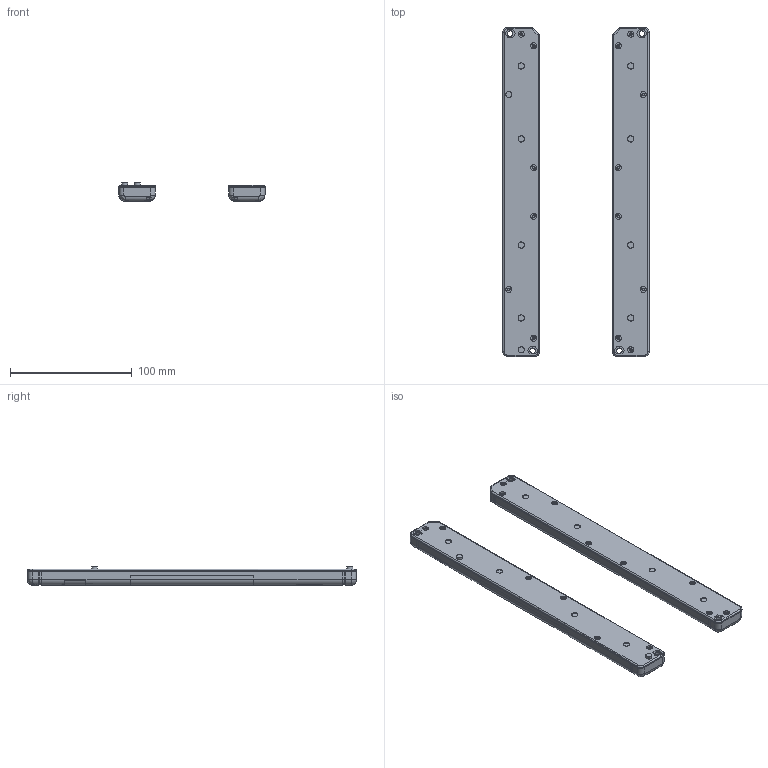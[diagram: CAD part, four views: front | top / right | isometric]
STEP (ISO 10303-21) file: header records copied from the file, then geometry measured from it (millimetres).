
FILE_DESCRIPTION(/* description */ (''),/* implementation_level */ '2;1');
FILE_NAME(/* name */ '1220.stp',/* time_stamp */ '2020-06-20T12:01:41+08:00',/* author */ (''),/* organization */ (''),/* preprocessor_version */ 'ST-DEVELOPER v16',/* originating_system */ 'SIEMENS PLM Software NX 10.0',/* authorisation */ '');
FILE_SCHEMA (('AP203_CONFIGURATION_CONTROLLED_3D_DESIGN_OF_MECHANICAL_PARTS_AND_ASSEMBLIES_MIM_LF { 1 0 10303 403 2 1 2}'));
Products named in the file (1): Admi184CCD9Epmx2
Bounding box: 120 x 270 x 15 mm (x, y, z)
Volume: 79484.3 mm3; surface area: 102543.8 mm2
Topology: 10 solids, 10 shells, 1818 faces, 5034 edges, 3325 vertices
Faces by surface type: plane 1395, cylinder 201, cone 141, bspline 66, extrusion 14, sphere 1
Full cylindrical faces by diameter (mm): 1.5 x16, 2.1 x12, 4.4 x4, 4.5 x4, 4.9 x17
Entity records: 60202 total; most frequent: CARTESIAN_POINT 14475, ORIENTED_EDGE 9680, DIRECTION 8873, EDGE_CURVE 4840, VECTOR 3509, LINE 3495, VERTEX_POINT 3243, AXIS2_PLACEMENT_3D 2682
